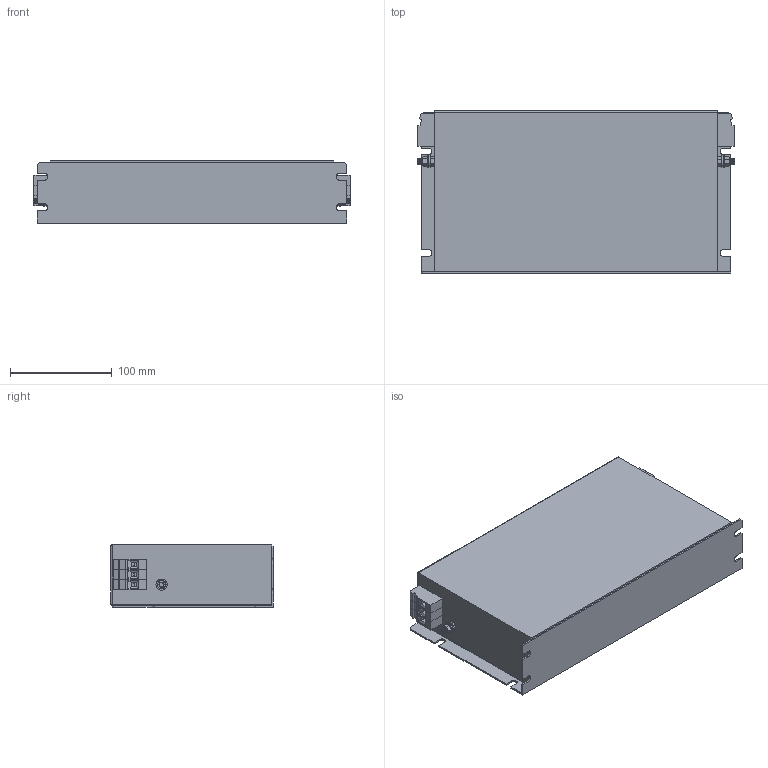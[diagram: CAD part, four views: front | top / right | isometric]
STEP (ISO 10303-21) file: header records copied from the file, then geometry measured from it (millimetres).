
FILE_DESCRIPTION (( 'STEP AP203' ), '1' );
FILE_NAME ('NF-16-MHU.STEP', '2019-10-24T12:50:54', ( '' ), ( '' ), 'SwSTEP 2.0', 'SolidWorks 2017', '' );
FILE_SCHEMA (( 'CONFIG_CONTROL_DESIGN' ));
Length unit declared in the file: millimetre
Products named in the file (8): flat washer narrow_am_B18.22M - Plain washer, 5 mm, narrow; M5x20 Earth post; RF-3016, 3025-MHU; VDFK-6; VDFK6x3; hex nut style 1_am_B18.2.4.1M - Hex nut, Style 1,  M5 x 0.8 --D-N; MHU Q; hex screw_am_B18.6.7M - M5 x 0.8 x 13 Indented HHMS --13S
Assembly tree (12 placements, depth 3):
  RF-3016, 3025-MHU
    MHU Q
    VDFK6x3  x2
      VDFK-6
    M5x20 Earth post  x2
      flat washer narrow_am_B18.22M - Plain washer, 5 mm, narrow
      hex nut style 1_am_B18.2.4.1M - Hex nut, Style 1,  M5 x 0.8 --D-N
      hex screw_am_B18.6.7M - M5 x 0.8 x 13 Indented HHMS --13S
Bounding box: 312.6 x 160 x 61.5 mm (x, y, z)
Volume: 2731891 mm3; surface area: 197179.8 mm2
Topology: 15 solids, 15 shells, 715 faces, 1777 edges, 1118 vertices
Faces by surface type: plane 363, cone 176, cylinder 174, sphere 2
Entity records: 9432 total; most frequent: CARTESIAN_POINT 1595, DIRECTION 1530, ORIENTED_EDGE 1400, EDGE_CURVE 700, AXIS2_PLACEMENT_3D 575, VERTEX_POINT 440, VECTOR 380, LINE 380
